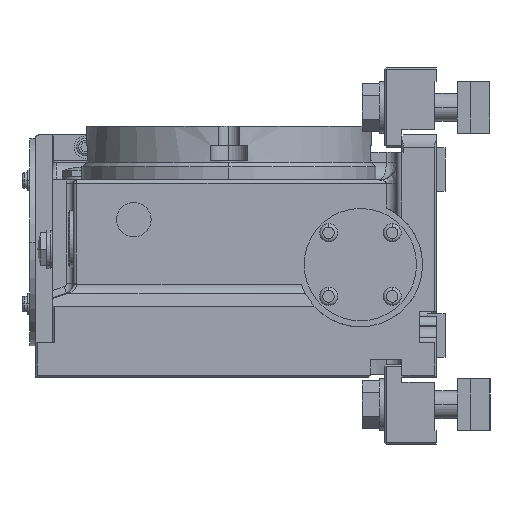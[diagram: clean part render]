
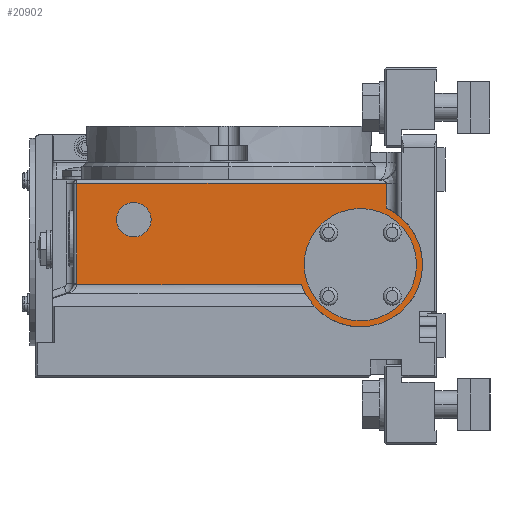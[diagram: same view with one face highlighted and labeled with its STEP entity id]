
A CAD part, left-side view. The second image highlights one B-rep face of the part: STEP entity #20902.
In plain terms, the highlighted planar face has unit normal (-1, 0, 0) as drawn and (0, 0, 1) by its records, which use the part's own axes.
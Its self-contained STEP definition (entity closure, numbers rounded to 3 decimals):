
#861 = CARTESIAN_POINT ( 'NONE',  ( -60.724, -97., 90. ) ) ;
#1093 = DIRECTION ( 'NONE',  ( 1., 0., 0. ) ) ;
#1904 = EDGE_CURVE ( 'NONE', #95725, #102586, #38130, .T. ) ;
#4453 = AXIS2_PLACEMENT_3D ( 'NONE', #51330, #100811, #56556 ) ;
#5328 = EDGE_LOOP ( 'NONE', ( #97233, #76699 ) ) ;
#5557 = ORIENTED_EDGE ( 'NONE', *, *, #66856, .T. ) ;
#5604 = AXIS2_PLACEMENT_3D ( 'NONE', #50189, #25814, #83045 ) ;
#6213 = AXIS2_PLACEMENT_3D ( 'NONE', #34769, #92043, #43021 ) ;
#6343 = CARTESIAN_POINT ( 'NONE',  ( -49., -76., 90. ) ) ;
#8158 = CARTESIAN_POINT ( 'NONE',  ( -2., 88., 90. ) ) ;
#9209 = LINE ( 'NONE', #85400, #30907 ) ;
#9792 = CARTESIAN_POINT ( 'NONE',  ( -13., 55., 90. ) ) ;
#11850 = AXIS2_PLACEMENT_3D ( 'NONE', #13605, #70904, #21885 ) ;
#12531 = EDGE_CURVE ( 'NONE', #96496, #68181, #55863, .T. ) ;
#13427 = FACE_OUTER_BOUND ( 'NONE', #86534, .T. ) ;
#13605 = CARTESIAN_POINT ( 'NONE',  ( -49., -76., 90. ) ) ;
#14550 = DIRECTION ( 'NONE',  ( 1., 0., 0. ) ) ;
#14787 = VERTEX_POINT ( 'NONE', #93808 ) ;
#14832 = CARTESIAN_POINT ( 'NONE',  ( 0., -91., 90. ) ) ;
#15205 = EDGE_CURVE ( 'NONE', #60150, #34470, #34638, .T. ) ;
#17268 = DIRECTION ( 'NONE',  ( 0., 1., 0. ) ) ;
#19876 = VECTOR ( 'NONE', #17268, 1000. ) ;
#20650 = CARTESIAN_POINT ( 'NONE',  ( -16.274, -91., 90. ) ) ;
#20902 = ADVANCED_FACE ( 'NONE', ( #95392, #78743, #13427 ), #99138, .F. ) ;
#21885 = DIRECTION ( 'NONE',  ( 1., 0., 0. ) ) ;
#25814 = DIRECTION ( 'NONE',  ( 0., 0., -1. ) ) ;
#30208 = VERTEX_POINT ( 'NONE', #20650 ) ;
#30907 = VECTOR ( 'NONE', #44626, 1000. ) ;
#31906 = CIRCLE ( 'NONE', #6213, 10. ) ;
#33017 = DIRECTION ( 'NONE',  ( -1., 0., 0. ) ) ;
#33893 = VERTEX_POINT ( 'NONE', #67894 ) ;
#34470 = VERTEX_POINT ( 'NONE', #83097 ) ;
#34638 = CIRCLE ( 'NONE', #65332, 32.5 ) ;
#34769 = CARTESIAN_POINT ( 'NONE',  ( -23., 55., 90. ) ) ;
#34792 = EDGE_CURVE ( 'NONE', #30208, #33893, #54265, .T. ) ;
#35810 = ORIENTED_EDGE ( 'NONE', *, *, #12531, .T. ) ;
#37426 = CARTESIAN_POINT ( 'NONE',  ( -60.724, 88.057, 90. ) ) ;
#37847 = EDGE_LOOP ( 'NONE', ( #51416, #105814 ) ) ;
#38130 = CIRCLE ( 'NONE', #4453, 10. ) ;
#39054 = EDGE_CURVE ( 'NONE', #14787, #68181, #85157, .T. ) ;
#39444 = DIRECTION ( 'NONE',  ( 0., 0., -1. ) ) ;
#39727 = AXIS2_PLACEMENT_3D ( 'NONE', #6343, #63605, #14550 ) ;
#43021 = DIRECTION ( 'NONE',  ( 1., 0., 0. ) ) ;
#44626 = DIRECTION ( 'NONE',  ( 0., 1., 0. ) ) ;
#49515 = CARTESIAN_POINT ( 'NONE',  ( 0., 88., 90. ) ) ;
#50108 = DIRECTION ( 'NONE',  ( 0., 0., 1. ) ) ;
#50136 = VECTOR ( 'NONE', #33017, 1000. ) ;
#50189 = CARTESIAN_POINT ( 'NONE',  ( 0., -97., 90. ) ) ;
#51330 = CARTESIAN_POINT ( 'NONE',  ( -23., 55., 90. ) ) ;
#51416 = ORIENTED_EDGE ( 'NONE', *, *, #15205, .F. ) ;
#52300 = VERTEX_POINT ( 'NONE', #8158 ) ;
#54261 = AXIS2_PLACEMENT_3D ( 'NONE', #88453, #39444, #96686 ) ;
#54265 = LINE ( 'NONE', #14832, #95227 ) ;
#55495 = CIRCLE ( 'NONE', #39727, 36. ) ;
#55863 = CIRCLE ( 'NONE', #54261, 8. ) ;
#56556 = DIRECTION ( 'NONE',  ( 1., 0., 0. ) ) ;
#60150 = VERTEX_POINT ( 'NONE', #62123 ) ;
#62123 = CARTESIAN_POINT ( 'NONE',  ( -16.5, -76., 90. ) ) ;
#63605 = DIRECTION ( 'NONE',  ( 0., 0., 1. ) ) ;
#63901 = DIRECTION ( 'NONE',  ( 1., 0., 0. ) ) ;
#65332 = AXIS2_PLACEMENT_3D ( 'NONE', #99054, #50108, #1093 ) ;
#66856 = EDGE_CURVE ( 'NONE', #33893, #52300, #9209, .T. ) ;
#67894 = CARTESIAN_POINT ( 'NONE',  ( -2., -91., 90. ) ) ;
#68181 = VERTEX_POINT ( 'NONE', #37426 ) ;
#70904 = DIRECTION ( 'NONE',  ( 0., 0., 1. ) ) ;
#71880 = LINE ( 'NONE', #49515, #50136 ) ;
#75962 = ORIENTED_EDGE ( 'NONE', *, *, #34792, .T. ) ;
#76699 = ORIENTED_EDGE ( 'NONE', *, *, #1904, .F. ) ;
#78503 = EDGE_CURVE ( 'NONE', #102586, #95725, #31906, .T. ) ;
#78743 = FACE_BOUND ( 'NONE', #37847, .T. ) ;
#83045 = DIRECTION ( 'NONE',  ( -1., 0., 0. ) ) ;
#83097 = CARTESIAN_POINT ( 'NONE',  ( -81.5, -76., 90. ) ) ;
#84066 = ORIENTED_EDGE ( 'NONE', *, *, #86352, .T. ) ;
#84577 = CIRCLE ( 'NONE', #11850, 32.5 ) ;
#85157 = LINE ( 'NONE', #861, #19876 ) ;
#85400 = CARTESIAN_POINT ( 'NONE',  ( -2., -97., 90. ) ) ;
#86352 = EDGE_CURVE ( 'NONE', #52300, #96496, #71880, .T. ) ;
#86522 = EDGE_CURVE ( 'NONE', #34470, #60150, #84577, .T. ) ;
#86534 = EDGE_LOOP ( 'NONE', ( #75962, #5557, #84066, #35810, #98776, #105041 ) ) ;
#88453 = CARTESIAN_POINT ( 'NONE',  ( -59.767, 96., 90. ) ) ;
#92043 = DIRECTION ( 'NONE',  ( 0., 0., 1. ) ) ;
#93808 = CARTESIAN_POINT ( 'NONE',  ( -60.724, -41.963, 90. ) ) ;
#95227 = VECTOR ( 'NONE', #63901, 1000. ) ;
#95392 = FACE_BOUND ( 'NONE', #5328, .T. ) ;
#95725 = VERTEX_POINT ( 'NONE', #97241 ) ;
#96496 = VERTEX_POINT ( 'NONE', #98534 ) ;
#96686 = DIRECTION ( 'NONE',  ( -1., 0., 0. ) ) ;
#97233 = ORIENTED_EDGE ( 'NONE', *, *, #78503, .F. ) ;
#97241 = CARTESIAN_POINT ( 'NONE',  ( -33., 55., 90. ) ) ;
#98534 = CARTESIAN_POINT ( 'NONE',  ( -59.767, 88., 90. ) ) ;
#98776 = ORIENTED_EDGE ( 'NONE', *, *, #39054, .F. ) ;
#99054 = CARTESIAN_POINT ( 'NONE',  ( -49., -76., 90. ) ) ;
#99138 = PLANE ( 'NONE',  #5604 ) ;
#100811 = DIRECTION ( 'NONE',  ( 0., 0., 1. ) ) ;
#101759 = EDGE_CURVE ( 'NONE', #14787, #30208, #55495, .T. ) ;
#102586 = VERTEX_POINT ( 'NONE', #9792 ) ;
#105041 = ORIENTED_EDGE ( 'NONE', *, *, #101759, .T. ) ;
#105814 = ORIENTED_EDGE ( 'NONE', *, *, #86522, .F. ) ;
